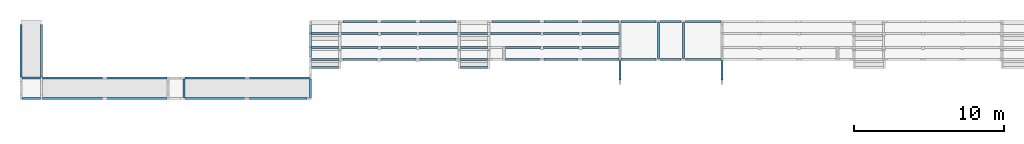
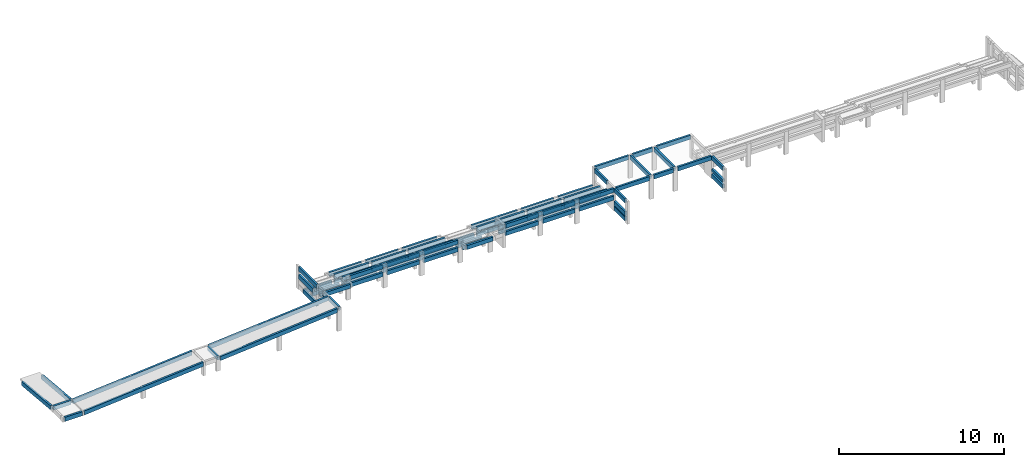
# One storey, part 4 of 9: 78 beams.
"""IFC4 building model written with IfcOpenShell, lengths in centimetres."""

from ifc_helpers import new_model, si_unit, derived_unit, frame, origin_with_axes, origin_2d_with_axis, place, context, project, spatial, rectangle, extrude, clip, halfspace, material, element, save


model = new_model("IFC4")

# Units and contexts
model_context = context("Model", 3, precision=1e-05, world=origin_with_axes(), identifier="Body")
ifc_project = project(units=[si_unit("LENGTHUNIT", "METRE", prefix="CENTI"), si_unit("VOLUMEUNIT", "CUBIC_METRE"), si_unit("AREAUNIT", "SQUARE_METRE"), si_unit("POWERUNIT", "WATT"), si_unit("LUMINOUSFLUXUNIT", "LUMEN"), si_unit("ELECTRICCURRENTUNIT", "AMPERE"), si_unit("PRESSUREUNIT", "PASCAL", prefix="KILO"), si_unit("MASSUNIT", "GRAM", prefix="KILO"), si_unit("PLANEANGLEUNIT", "RADIAN"), derived_unit("VOLUMETRICFLOWRATEUNIT", [(si_unit("LENGTHUNIT", "METRE"), 3), (si_unit("TIMEUNIT", "SECOND"), -1)])], contexts=[model_context])

# Site, building, storey
site_placement = place(None, origin_with_axes())
site = spatial("IfcSite", under=ifc_project, at=site_placement)
building_placement = place(site_placement, frame((0.0, 0.0, -170.0)))
building = spatial("IfcBuilding", under=site, at=building_placement)
placement = place(building_placement, origin_with_axes())
storey_placement = place(placement, frame((0.0, 0.0, 170.0), z_axis=(0.0, 0.0, 1.0), x_axis=(1.0, 0.0, 0.0)))
storey = spatial("IfcBuildingStorey", under=building, at=storey_placement, Name="Arquibancada", CompositionType="ELEMENT", Elevation=0.0)

# Beams
ifc_material = material(Name="Concreto")
beam_1_placement = place(storey_placement, frame((2198.06, 385.0, 0.0), z_axis=(0.0, 0.0, 1.0), x_axis=(1.0, 0.0, 0.0)))
element("IfcBeam", 1, at=beam_1_placement, inside=storey, material=ifc_material, Name="V1", context=model_context, shape_type="SolidModel", body=[
    extrude(rectangle(XDim=14.0, YDim=30.0, at=origin_2d_with_axis()), frame((-117.5, 0.0, -15.0), z_axis=(1.0, 0.0, 0.0), x_axis=(0.0, 1.0, 0.0)), (0.0, 0.0, 1.0), 235.0),
])
beam_2_placement = place(storey_placement, frame((2414.06, 385.0, 0.0), z_axis=(0.0, 0.0, 1.0), x_axis=(1.0, 0.0, 0.0)))
element("IfcBeam", 2, at=beam_2_placement, inside=storey, material=ifc_material, Name="V1", context=model_context, shape_type="SolidModel", body=[
    extrude(rectangle(XDim=14.0, YDim=30.0, at=origin_2d_with_axis()), frame((-68.5, 0.0, -15.0), z_axis=(1.0, 0.0, 0.0), x_axis=(0.0, 1.0, 0.0)), (0.0, 0.0, 1.0), 137.0),
])
beam_3_placement = place(storey_placement, frame((2630.06, 385.0, 0.0), z_axis=(0.0, 0.0, 1.0), x_axis=(1.0, 0.0, 0.0)))
element("IfcBeam", 3, at=beam_3_placement, inside=storey, material=ifc_material, Name="V1", context=model_context, shape_type="SolidModel", body=[
    extrude(rectangle(XDim=14.0, YDim=30.0, at=origin_2d_with_axis()), frame((-117.5, 0.0, -15.0), z_axis=(1.0, 0.0, 0.0), x_axis=(0.0, 1.0, 0.0)), (0.0, 0.0, 1.0), 235.0),
])
beam_4_placement = place(storey_placement, frame((1945.9, 385.0, -132.0), z_axis=(0.0, 0.0, 1.0), x_axis=(1.0, 0.0, 0.0)))
element("IfcBeam", 4, at=beam_4_placement, inside=storey, material=ifc_material, Name="V107", context=model_context, shape_type="SolidModel", body=[
    extrude(rectangle(XDim=14.0, YDim=30.0, at=origin_2d_with_axis()), frame((-120.66, 0.0, -15.0), z_axis=(1.0, 0.0, 0.0), x_axis=(0.0, 1.0, 0.0)), (0.0, 0.0, 1.0), 241.32),
])
beam_5_placement = place(storey_placement, frame((1682.08, 385.0, -132.0), z_axis=(0.0, 0.0, 1.0), x_axis=(1.0, 0.0, 0.0)))
element("IfcBeam", 5, at=beam_5_placement, inside=storey, material=ifc_material, Name="V107", context=model_context, shape_type="SolidModel", body=[
    extrude(rectangle(XDim=14.0, YDim=30.0, at=origin_2d_with_axis()), frame((-113.16, 0.0, -15.0), z_axis=(1.0, 0.0, 0.0), x_axis=(0.0, 1.0, 0.0)), (0.0, 0.0, 1.0), 226.32),
])
beam_6_placement = place(storey_placement, frame((1380.225, 385.0, -132.0), z_axis=(0.0, 0.0, 1.0), x_axis=(1.0, 0.0, 0.0)))
element("IfcBeam", 6, at=beam_6_placement, inside=storey, material=ifc_material, Name="V107", context=model_context, shape_type="SolidModel", body=[
    extrude(rectangle(XDim=14.0, YDim=30.0, at=origin_2d_with_axis()), frame((-158.695, 0.0, -15.0), z_axis=(1.0, 0.0, 0.0), x_axis=(0.0, 1.0, 0.0)), (0.0, 0.0, 1.0), 317.39),
])
beam_7_placement = place(storey_placement, frame((-415.0, 7.0, 0.0), z_axis=(0.0, 0.0, 1.0), x_axis=(1.0, 0.0, 0.0)))
element("IfcBeam", 7, at=beam_7_placement, inside=storey, material=ifc_material, Name="V11", context=model_context, shape_type="Clipping", body=[
    clip(clip(extrude(rectangle(XDim=14.0, YDim=30.0, at=origin_2d_with_axis()), frame((416.74121599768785, 0.0, -14.948557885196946), z_axis=(0.996570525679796, 0.0, 0.082747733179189), x_axis=(0.0, 1.0, 0.0)), (0.0, 0.0, -1.0), 836.3506751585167), halfspace(frame((415.5, 0.0, 0.0), z_axis=(-1.0, 0.0, 0.0), x_axis=(0.0, -0.082747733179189, 0.0)), True)), halfspace(frame((-415.5, 0.0, -69.0), z_axis=(1.0, 0.0, 0.0), x_axis=(0.0, 0.082747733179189, 0.0)), True)),
])
beam_8_placement = place(storey_placement, frame((-423.0, -130.0, 0.0), z_axis=(0.0, 0.0, 1.0), x_axis=(1.0, 0.0, 0.0)))
element("IfcBeam", 8, at=beam_8_placement, inside=storey, material=ifc_material, Name="V13", context=model_context, shape_type="Clipping", body=[
    clip(clip(extrude(rectangle(XDim=14.0, YDim=30.0, at=origin_2d_with_axis()), frame((408.7654116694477, 0.0, -14.946529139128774), z_axis=(0.996435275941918, 0.0, 0.084360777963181), x_axis=(0.0, 1.0, 0.0)), (0.0, 0.0, -1.0), 820.4555208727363), halfspace(frame((407.5, 0.0, 0.0), z_axis=(-1.0, 0.0, 0.0), x_axis=(0.0, -0.084360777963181, 0.0)), True)), halfspace(frame((-407.5, 0.0, -69.0), z_axis=(1.0, 0.0, 0.0), x_axis=(0.0, 0.084360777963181, 0.0)), True)),
])
beam_9_placement = place(storey_placement, frame((336.66, 210.0, -56.0), z_axis=(0.0, 0.0, 1.0), x_axis=(1.0, 0.0, 0.0)))
element("IfcBeam", 9, at=beam_9_placement, inside=storey, material=ifc_material, Name="V17", context=model_context, shape_type="SolidModel", body=[
    extrude(rectangle(XDim=14.0, YDim=30.0, at=origin_2d_with_axis()), frame((-121.16, 0.0, -15.0), z_axis=(1.0, 0.0, 0.0), x_axis=(0.0, 1.0, 0.0)), (0.0, 0.0, 1.0), 242.32),
])
beam_10_placement = place(storey_placement, frame((596.23, 210.0, -56.0), z_axis=(0.0, 0.0, 1.0), x_axis=(1.0, 0.0, 0.0)))
element("IfcBeam", 10, at=beam_10_placement, inside=storey, material=ifc_material, Name="V17", context=model_context, shape_type="SolidModel", body=[
    extrude(rectangle(XDim=14.0, YDim=30.0, at=origin_2d_with_axis()), frame((-118.41, 0.0, -15.0), z_axis=(1.0, 0.0, 0.0), x_axis=(0.0, 1.0, 0.0)), (0.0, 0.0, 1.0), 236.82),
])
beam_11_placement = place(storey_placement, frame((861.585, 210.0, -56.0), z_axis=(0.0, 0.0, 1.0), x_axis=(1.0, 0.0, 0.0)))
element("IfcBeam", 11, at=beam_11_placement, inside=storey, material=ifc_material, Name="V17", context=model_context, shape_type="SolidModel", body=[
    extrude(rectangle(XDim=14.0, YDim=30.0, at=origin_2d_with_axis()), frame((-127.945, 0.0, -15.0), z_axis=(1.0, 0.0, 0.0), x_axis=(0.0, 1.0, 0.0)), (0.0, 0.0, 1.0), 255.89),
])
beam_12_placement = place(storey_placement, frame((1943.15, 210.0, -56.0), z_axis=(0.0, 0.0, 1.0), x_axis=(1.0, 0.0, 0.0)))
element("IfcBeam", 12, at=beam_12_placement, inside=storey, material=ifc_material, Name="V18", context=model_context, shape_type="SolidModel", body=[
    extrude(rectangle(XDim=14.0, YDim=30.0, at=origin_2d_with_axis()), frame((-123.41, 0.0, -15.0), z_axis=(1.0, 0.0, 0.0), x_axis=(0.0, 1.0, 0.0)), (0.0, 0.0, 1.0), 246.82),
])
beam_13_placement = place(storey_placement, frame((1427.49, 210.0, -56.0), z_axis=(0.0, 0.0, 1.0), x_axis=(1.0, 0.0, 0.0)))
element("IfcBeam", 13, at=beam_13_placement, inside=storey, material=ifc_material, Name="V18", context=model_context, shape_type="SolidModel", body=[
    extrude(rectangle(XDim=14.0, YDim=30.0, at=origin_2d_with_axis()), frame((-116.93, 0.0, -15.0), z_axis=(1.0, 0.0, 0.0), x_axis=(0.0, 1.0, 0.0)), (0.0, 0.0, 1.0), 233.86),
])
beam_14_placement = place(storey_placement, frame((1682.08, 210.0, -56.0), z_axis=(0.0, 0.0, 1.0), x_axis=(1.0, 0.0, 0.0)))
element("IfcBeam", 14, at=beam_14_placement, inside=storey, material=ifc_material, Name="V18", context=model_context, shape_type="SolidModel", body=[
    extrude(rectangle(XDim=14.0, YDim=30.0, at=origin_2d_with_axis()), frame((-118.66, 0.0, -15.0), z_axis=(1.0, 0.0, 0.0), x_axis=(0.0, 1.0, 0.0)), (0.0, 0.0, 1.0), 237.32),
])
beam_15_placement = place(storey_placement, frame((858.835, 131.0, 0.0), z_axis=(0.0, 0.0, 1.0), x_axis=(1.0, 0.0, 0.0)))
element("IfcBeam", 15, at=beam_15_placement, inside=storey, material=ifc_material, Name="V2", context=model_context, shape_type="SolidModel", body=[
    extrude(rectangle(XDim=14.0, YDim=30.0, at=origin_2d_with_axis()), frame((-119.695, 0.0, -15.0), z_axis=(1.0, 0.0, 0.0), x_axis=(0.0, 1.0, 0.0)), (0.0, 0.0, 1.0), 239.39),
])
for number, where, z_axis, x_axis, name in (
    (16, (339.66, 131.0, 0.0), (0.0, 0.0, 1.0), (1.0, 0.0, 0.0), "V2"),
    (17, (595.98, 131.0, 0.0), (0.0, 0.0, 1.0), (1.0, 0.0, 0.0), "V2"),
):
    element("IfcBeam", number, at=place(storey_placement, frame(where, z_axis=z_axis, x_axis=x_axis)), inside=storey, material=ifc_material, Name=name, context=model_context, shape_type="SolidModel", body=[
        extrude(rectangle(XDim=14.0, YDim=30.0, at=origin_2d_with_axis()), frame((-113.16, 0.0, -15.0), z_axis=(1.0, 0.0, 0.0), x_axis=(0.0, 1.0, 0.0)), (0.0, 0.0, 1.0), 226.32),
    ])
beam_16_placement = place(storey_placement, frame((858.835, 131.0, -56.0), z_axis=(0.0, 0.0, 1.0), x_axis=(1.0, 0.0, 0.0)))
element("IfcBeam", 18, at=beam_16_placement, inside=storey, material=ifc_material, Name="V21", context=model_context, shape_type="SolidModel", body=[
    extrude(rectangle(XDim=14.0, YDim=30.0, at=origin_2d_with_axis()), frame((-119.695, 0.0, -15.0), z_axis=(1.0, 0.0, 0.0), x_axis=(0.0, 1.0, 0.0)), (0.0, 0.0, 1.0), 239.39),
])
beam_17_placement = place(storey_placement, frame((339.66, 131.0, -56.0), z_axis=(0.0, 0.0, 1.0), x_axis=(1.0, 0.0, 0.0)))
element("IfcBeam", 19, at=beam_17_placement, inside=storey, material=ifc_material, Name="V21", context=model_context, shape_type="SolidModel", body=[
    extrude(rectangle(XDim=14.0, YDim=30.0, at=origin_2d_with_axis()), frame((-113.16, 0.0, -15.0), z_axis=(1.0, 0.0, 0.0), x_axis=(0.0, 1.0, 0.0)), (0.0, 0.0, 1.0), 226.32),
])
beam_18_placement = place(storey_placement, frame((105.5, 131.0, -56.0), z_axis=(0.0, 0.0, 1.0), x_axis=(1.0, 0.0, 0.0)))
element("IfcBeam", 20, at=beam_18_placement, inside=storey, material=ifc_material, Name="V21", context=model_context, shape_type="SolidModel", body=[
    extrude(rectangle(XDim=14.0, YDim=30.0, at=origin_2d_with_axis()), frame((-91.0, 0.0, -15.0), z_axis=(1.0, 0.0, 0.0), x_axis=(0.0, 1.0, 0.0)), (0.0, 0.0, 1.0), 182.0),
])
beam_19_placement = place(storey_placement, frame((595.98, 131.0, -56.0), z_axis=(0.0, 0.0, 1.0), x_axis=(1.0, 0.0, 0.0)))
element("IfcBeam", 21, at=beam_19_placement, inside=storey, material=ifc_material, Name="V21", context=model_context, shape_type="SolidModel", body=[
    extrude(rectangle(XDim=14.0, YDim=30.0, at=origin_2d_with_axis()), frame((-113.16, 0.0, -15.0), z_axis=(1.0, 0.0, 0.0), x_axis=(0.0, 1.0, 0.0)), (0.0, 0.0, 1.0), 226.32),
])
beam_20_placement = place(storey_placement, frame((1100.035, 131.0, -56.0), z_axis=(0.0, 0.0, 1.0), x_axis=(1.0, 0.0, 0.0)))
element("IfcBeam", 22, at=beam_20_placement, inside=storey, material=ifc_material, Name="V21", context=model_context, shape_type="SolidModel", body=[
    extrude(rectangle(XDim=14.0, YDim=30.0, at=origin_2d_with_axis()), frame((-91.505, 0.0, -15.0), z_axis=(1.0, 0.0, 0.0), x_axis=(0.0, 1.0, 0.0)), (0.0, 0.0, 1.0), 183.01),
])
beam_21_placement = place(storey_placement, frame((1945.9, 131.0, -56.0), z_axis=(0.0, 0.0, 1.0), x_axis=(1.0, 0.0, 0.0)))
element("IfcBeam", 23, at=beam_21_placement, inside=storey, material=ifc_material, Name="V22", context=model_context, shape_type="SolidModel", body=[
    extrude(rectangle(XDim=14.0, YDim=30.0, at=origin_2d_with_axis()), frame((-120.66, 0.0, -15.0), z_axis=(1.0, 0.0, 0.0), x_axis=(0.0, 1.0, 0.0)), (0.0, 0.0, 1.0), 241.32),
])
beam_22_placement = place(storey_placement, frame((1424.74, 131.0, -56.0), z_axis=(0.0, 0.0, 1.0), x_axis=(1.0, 0.0, 0.0)))
element("IfcBeam", 24, at=beam_22_placement, inside=storey, material=ifc_material, Name="V22", context=model_context, shape_type="SolidModel", body=[
    extrude(rectangle(XDim=14.0, YDim=30.0, at=origin_2d_with_axis()), frame((-114.18, 0.0, -15.0), z_axis=(1.0, 0.0, 0.0), x_axis=(0.0, 1.0, 0.0)), (0.0, 0.0, 1.0), 228.36),
])
beam_23_placement = place(storey_placement, frame((1682.08, 131.0, -56.0), z_axis=(0.0, 0.0, 1.0), x_axis=(1.0, 0.0, 0.0)))
element("IfcBeam", 25, at=beam_23_placement, inside=storey, material=ifc_material, Name="V22", context=model_context, shape_type="SolidModel", body=[
    extrude(rectangle(XDim=14.0, YDim=30.0, at=origin_2d_with_axis()), frame((-113.16, 0.0, -15.0), z_axis=(1.0, 0.0, 0.0), x_axis=(0.0, 1.0, 0.0)), (0.0, 0.0, 1.0), 226.32),
])
beam_24_placement = place(storey_placement, frame((-837.5, -61.5, -69.0), z_axis=(0.0, 0.0, 1.0), x_axis=(1.0, 0.0, 0.0)))
element("IfcBeam", 26, at=beam_24_placement, inside=storey, material=ifc_material, Name="V28", context=model_context, shape_type="SolidModel", body=[
    extrude(rectangle(XDim=14.0, YDim=30.0, at=origin_2d_with_axis()), frame((0.0, -61.5, -15.0), z_axis=(0.0, 1.0, 0.0), x_axis=(-1.0, 0.0, 0.0)), (0.0, 0.0, 1.0), 123.0),
])
beam_25_placement = place(storey_placement, frame((7.5, 276.0, -56.0), z_axis=(0.0, 0.0, 1.0), x_axis=(1.0, 0.0, 0.0)))
element("IfcBeam", 27, at=beam_25_placement, inside=storey, material=ifc_material, Name="V29", context=model_context, shape_type="SolidModel", body=[
    extrude(rectangle(XDim=14.0, YDim=30.0, at=origin_2d_with_axis()), frame((0.0, -86.0, -15.0), z_axis=(0.0, 1.0, 0.0), x_axis=(-1.0, 0.0, 0.0)), (0.0, 0.0, 1.0), 172.0),
])
beam_26_placement = place(storey_placement, frame((2198.06, 131.0, 0.0), z_axis=(0.0, 0.0, 1.0), x_axis=(1.0, 0.0, 0.0)))
element("IfcBeam", 28, at=beam_26_placement, inside=storey, material=ifc_material, Name="V3", context=model_context, shape_type="SolidModel", body=[
    extrude(rectangle(XDim=14.0, YDim=30.0, at=origin_2d_with_axis()), frame((-117.5, 0.0, -15.0), z_axis=(1.0, 0.0, 0.0), x_axis=(0.0, 1.0, 0.0)), (0.0, 0.0, 1.0), 235.0),
])
beam_27_placement = place(storey_placement, frame((1945.9, 131.0, 0.0), z_axis=(0.0, 0.0, 1.0), x_axis=(1.0, 0.0, 0.0)))
element("IfcBeam", 29, at=beam_27_placement, inside=storey, material=ifc_material, Name="V3", context=model_context, shape_type="SolidModel", body=[
    extrude(rectangle(XDim=14.0, YDim=30.0, at=origin_2d_with_axis()), frame((-120.66, 0.0, -15.0), z_axis=(1.0, 0.0, 0.0), x_axis=(0.0, 1.0, 0.0)), (0.0, 0.0, 1.0), 241.32),
])
beam_28_placement = place(storey_placement, frame((1682.08, 131.0, 0.0), z_axis=(0.0, 0.0, 1.0), x_axis=(1.0, 0.0, 0.0)))
element("IfcBeam", 30, at=beam_28_placement, inside=storey, material=ifc_material, Name="V3", context=model_context, shape_type="SolidModel", body=[
    extrude(rectangle(XDim=14.0, YDim=30.0, at=origin_2d_with_axis()), frame((-113.16, 0.0, -15.0), z_axis=(1.0, 0.0, 0.0), x_axis=(0.0, 1.0, 0.0)), (0.0, 0.0, 1.0), 226.32),
])
beam_29_placement = place(storey_placement, frame((1424.74, 131.0, 0.0), z_axis=(0.0, 0.0, 1.0), x_axis=(1.0, 0.0, 0.0)))
element("IfcBeam", 31, at=beam_29_placement, inside=storey, material=ifc_material, Name="V3", context=model_context, shape_type="SolidModel", body=[
    extrude(rectangle(XDim=14.0, YDim=30.0, at=origin_2d_with_axis()), frame((-114.18, 0.0, -15.0), z_axis=(1.0, 0.0, 0.0), x_axis=(0.0, 1.0, 0.0)), (0.0, 0.0, 1.0), 228.36),
])
beam_30_placement = place(storey_placement, frame((2630.06, 131.0, 0.0), z_axis=(0.0, 0.0, 1.0), x_axis=(1.0, 0.0, 0.0)))
element("IfcBeam", 32, at=beam_30_placement, inside=storey, material=ifc_material, Name="V3", context=model_context, shape_type="SolidModel", body=[
    extrude(rectangle(XDim=14.0, YDim=30.0, at=origin_2d_with_axis()), frame((-117.5, 0.0, -15.0), z_axis=(1.0, 0.0, 0.0), x_axis=(0.0, 1.0, 0.0)), (0.0, 0.0, 1.0), 235.0),
])
beam_31_placement = place(storey_placement, frame((2414.06, 131.0, 0.0), z_axis=(0.0, 0.0, 1.0), x_axis=(1.0, 0.0, 0.0)))
element("IfcBeam", 33, at=beam_31_placement, inside=storey, material=ifc_material, Name="V3", context=model_context, shape_type="SolidModel", body=[
    extrude(rectangle(XDim=14.0, YDim=30.0, at=origin_2d_with_axis()), frame((-68.5, 0.0, -15.0), z_axis=(1.0, 0.0, 0.0), x_axis=(0.0, 1.0, 0.0)), (0.0, 0.0, 1.0), 137.0),
])
for number, where, z_axis, x_axis, name in (
    (34, (-1365.5, 6.5, -69.0), (0.0, 0.0, 1.0), (1.0, 0.0, 0.0), "V32"),
    (35, (-1365.5, -130.0, -69.0), (0.0, 0.0, 1.0), (1.0, 0.0, 0.0), "V33"),
):
    element("IfcBeam", number, at=place(storey_placement, frame(where, z_axis=z_axis, x_axis=x_axis)), inside=storey, material=ifc_material, Name=name, context=model_context, shape_type="Clipping", body=[
        clip(clip(extrude(rectangle(XDim=14.0, YDim=30.0, at=origin_2d_with_axis()), frame((416.2427011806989, 0.0, -14.948434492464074), z_axis=(0.996562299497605, 0.0, 0.082846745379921), x_axis=(0.0, 1.0, 0.0)), (0.0, 0.0, -1.0), 835.3571099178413), halfspace(frame((415.0, 0.0, 0.0), z_axis=(-1.0, 0.0, 0.0), x_axis=(0.0, -0.082846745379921, 0.0)), True)), halfspace(frame((-415.0, 0.0, -69.0), z_axis=(1.0, 0.0, 0.0), x_axis=(0.0, 0.082846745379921, 0.0)), True)),
    ])
beam_32_placement = place(storey_placement, frame((861.585, 305.0, -94.0), z_axis=(0.0, 0.0, 1.0), x_axis=(1.0, 0.0, 0.0)))
element("IfcBeam", 36, at=beam_32_placement, inside=storey, material=ifc_material, Name="V35", context=model_context, shape_type="SolidModel", body=[
    extrude(rectangle(XDim=14.0, YDim=30.0, at=origin_2d_with_axis()), frame((-127.945, 0.0, -15.0), z_axis=(1.0, 0.0, 0.0), x_axis=(0.0, 1.0, 0.0)), (0.0, 0.0, 1.0), 255.89),
])
beam_33_placement = place(storey_placement, frame((596.23, 305.0, -94.0), z_axis=(0.0, 0.0, 1.0), x_axis=(1.0, 0.0, 0.0)))
element("IfcBeam", 37, at=beam_33_placement, inside=storey, material=ifc_material, Name="V35", context=model_context, shape_type="SolidModel", body=[
    extrude(rectangle(XDim=14.0, YDim=30.0, at=origin_2d_with_axis()), frame((-118.41, 0.0, -15.0), z_axis=(1.0, 0.0, 0.0), x_axis=(0.0, 1.0, 0.0)), (0.0, 0.0, 1.0), 236.82),
])
beam_34_placement = place(storey_placement, frame((336.66, 305.0, -94.0), z_axis=(0.0, 0.0, 1.0), x_axis=(1.0, 0.0, 0.0)))
element("IfcBeam", 38, at=beam_34_placement, inside=storey, material=ifc_material, Name="V35", context=model_context, shape_type="SolidModel", body=[
    extrude(rectangle(XDim=14.0, YDim=30.0, at=origin_2d_with_axis()), frame((-121.16, 0.0, -15.0), z_axis=(1.0, 0.0, 0.0), x_axis=(0.0, 1.0, 0.0)), (0.0, 0.0, 1.0), 242.32),
])
beam_35_placement = place(storey_placement, frame((1682.08, 210.0, -94.0), z_axis=(0.0, 0.0, 1.0), x_axis=(1.0, 0.0, 0.0)))
element("IfcBeam", 39, at=beam_35_placement, inside=storey, material=ifc_material, Name="V37", context=model_context, shape_type="SolidModel", body=[
    extrude(rectangle(XDim=14.0, YDim=30.0, at=origin_2d_with_axis()), frame((-118.66, 0.0, -15.0), z_axis=(1.0, 0.0, 0.0), x_axis=(0.0, 1.0, 0.0)), (0.0, 0.0, 1.0), 237.32),
])
beam_36_placement = place(storey_placement, frame((1427.49, 210.0, -94.0), z_axis=(0.0, 0.0, 1.0), x_axis=(1.0, 0.0, 0.0)))
element("IfcBeam", 40, at=beam_36_placement, inside=storey, material=ifc_material, Name="V37", context=model_context, shape_type="SolidModel", body=[
    extrude(rectangle(XDim=14.0, YDim=30.0, at=origin_2d_with_axis()), frame((-116.93, 0.0, -15.0), z_axis=(1.0, 0.0, 0.0), x_axis=(0.0, 1.0, 0.0)), (0.0, 0.0, 1.0), 233.86),
])
beam_37_placement = place(storey_placement, frame((102.0, 210.0, -94.0), z_axis=(0.0, 0.0, 1.0), x_axis=(1.0, 0.0, 0.0)))
element("IfcBeam", 41, at=beam_37_placement, inside=storey, material=ifc_material, Name="V37", context=model_context, shape_type="SolidModel", body=[
    extrude(rectangle(XDim=14.0, YDim=30.0, at=origin_2d_with_axis()), frame((-94.5, 0.0, -15.0), z_axis=(1.0, 0.0, 0.0), x_axis=(0.0, 1.0, 0.0)), (0.0, 0.0, 1.0), 189.0),
])
beam_38_placement = place(storey_placement, frame((1100.03, 210.0, -94.0), z_axis=(0.0, 0.0, 1.0), x_axis=(1.0, 0.0, 0.0)))
element("IfcBeam", 42, at=beam_38_placement, inside=storey, material=ifc_material, Name="V37", context=model_context, shape_type="SolidModel", body=[
    extrude(rectangle(XDim=14.0, YDim=30.0, at=origin_2d_with_axis()), frame((-91.5, 0.0, -15.0), z_axis=(1.0, 0.0, 0.0), x_axis=(0.0, 1.0, 0.0)), (0.0, 0.0, 1.0), 183.0),
])
beam_39_placement = place(storey_placement, frame((596.23, 210.0, -94.0), z_axis=(0.0, 0.0, 1.0), x_axis=(1.0, 0.0, 0.0)))
element("IfcBeam", 43, at=beam_39_placement, inside=storey, material=ifc_material, Name="V37", context=model_context, shape_type="SolidModel", body=[
    extrude(rectangle(XDim=14.0, YDim=30.0, at=origin_2d_with_axis()), frame((-118.41, 0.0, -15.0), z_axis=(1.0, 0.0, 0.0), x_axis=(0.0, 1.0, 0.0)), (0.0, 0.0, 1.0), 236.82),
])
beam_40_placement = place(storey_placement, frame((1943.15, 210.0, -94.0), z_axis=(0.0, 0.0, 1.0), x_axis=(1.0, 0.0, 0.0)))
element("IfcBeam", 44, at=beam_40_placement, inside=storey, material=ifc_material, Name="V37", context=model_context, shape_type="SolidModel", body=[
    extrude(rectangle(XDim=14.0, YDim=30.0, at=origin_2d_with_axis()), frame((-123.41, 0.0, -15.0), z_axis=(1.0, 0.0, 0.0), x_axis=(0.0, 1.0, 0.0)), (0.0, 0.0, 1.0), 246.82),
])
beam_41_placement = place(storey_placement, frame((861.585, 210.0, -94.0), z_axis=(0.0, 0.0, 1.0), x_axis=(1.0, 0.0, 0.0)))
element("IfcBeam", 45, at=beam_41_placement, inside=storey, material=ifc_material, Name="V37", context=model_context, shape_type="SolidModel", body=[
    extrude(rectangle(XDim=14.0, YDim=30.0, at=origin_2d_with_axis()), frame((-127.945, 0.0, -15.0), z_axis=(1.0, 0.0, 0.0), x_axis=(0.0, 1.0, 0.0)), (0.0, 0.0, 1.0), 255.89),
])
beam_42_placement = place(storey_placement, frame((336.66, 210.0, -94.0), z_axis=(0.0, 0.0, 1.0), x_axis=(1.0, 0.0, 0.0)))
element("IfcBeam", 46, at=beam_42_placement, inside=storey, material=ifc_material, Name="V37", context=model_context, shape_type="SolidModel", body=[
    extrude(rectangle(XDim=14.0, YDim=30.0, at=origin_2d_with_axis()), frame((-121.16, 0.0, -15.0), z_axis=(1.0, 0.0, 0.0), x_axis=(0.0, 1.0, 0.0)), (0.0, 0.0, 1.0), 242.32),
])
beam_43_placement = place(storey_placement, frame((2073.56, 59.25, -94.0), z_axis=(0.0, 0.0, 1.0), x_axis=(1.0, 0.0, 0.0)))
element("IfcBeam", 47, at=beam_43_placement, inside=storey, material=ifc_material, Name="V43", context=model_context, shape_type="SolidModel", body=[
    extrude(rectangle(XDim=14.0, YDim=30.0, at=origin_2d_with_axis()), frame((0.0, -64.75, -15.0), z_axis=(0.0, 1.0, 0.0), x_axis=(1.0, 0.0, 0.0)), (0.0, 0.0, 1.0), 129.5),
])
beam_44_placement = place(storey_placement, frame((2754.56, 59.25, -94.0), z_axis=(0.0, 0.0, 1.0), x_axis=(1.0, 0.0, 0.0)))
element("IfcBeam", 48, at=beam_44_placement, inside=storey, material=ifc_material, Name="V44", context=model_context, shape_type="SolidModel", body=[
    extrude(rectangle(XDim=14.0, YDim=20.0, at=origin_2d_with_axis()), frame((0.0, -64.75, -10.0), z_axis=(0.0, 1.0, 0.0), x_axis=(1.0, 0.0, 0.0)), (0.0, 0.0, 1.0), 129.5),
])
beam_45_placement = place(storey_placement, frame((7.5, -61.5, 0.0), z_axis=(0.0, 0.0, 1.0), x_axis=(1.0, 0.0, 0.0)))
element("IfcBeam", 49, at=beam_45_placement, inside=storey, material=ifc_material, Name="V5", context=model_context, shape_type="SolidModel", body=[
    extrude(rectangle(XDim=14.0, YDim=30.0, at=origin_2d_with_axis()), frame((0.0, -61.5, -15.0), z_axis=(0.0, 1.0, 0.0), x_axis=(1.0, 0.0, 0.0)), (0.0, 0.0, 1.0), 123.0),
])
beam_46_placement = place(storey_placement, frame((7.5, 254.0, 0.0), z_axis=(0.0, 0.0, 1.0), x_axis=(1.0, 0.0, 0.0)))
element("IfcBeam", 50, at=beam_46_placement, inside=storey, material=ifc_material, Name="V5", context=model_context, shape_type="SolidModel", body=[
    extrude(rectangle(XDim=14.0, YDim=30.0, at=origin_2d_with_axis()), frame((0.0, -108.0, -15.0), z_axis=(0.0, 1.0, 0.0), x_axis=(-1.0, 0.0, 0.0)), (0.0, 0.0, 1.0), 216.0),
])
beam_47_placement = place(storey_placement, frame((858.835, 385.0, -132.0), z_axis=(0.0, 0.0, 1.0), x_axis=(1.0, 0.0, 0.0)))
element("IfcBeam", 51, at=beam_47_placement, inside=storey, material=ifc_material, Name="V50", context=model_context, shape_type="SolidModel", body=[
    extrude(rectangle(XDim=14.0, YDim=30.0, at=origin_2d_with_axis()), frame((-119.695, 0.0, -15.0), z_axis=(1.0, 0.0, 0.0), x_axis=(0.0, 1.0, 0.0)), (0.0, 0.0, 1.0), 239.39),
])
for number, where, z_axis, x_axis, name in (
    (52, (339.66, 385.0, -132.0), (0.0, 0.0, 1.0), (1.0, 0.0, 0.0), "V50"),
    (53, (595.98, 385.0, -132.0), (0.0, 0.0, 1.0), (1.0, 0.0, 0.0), "V50"),
):
    element("IfcBeam", number, at=place(storey_placement, frame(where, z_axis=z_axis, x_axis=x_axis)), inside=storey, material=ifc_material, Name=name, context=model_context, shape_type="SolidModel", body=[
        extrude(rectangle(XDim=14.0, YDim=30.0, at=origin_2d_with_axis()), frame((-113.16, 0.0, -15.0), z_axis=(1.0, 0.0, 0.0), x_axis=(0.0, 1.0, 0.0)), (0.0, 0.0, 1.0), 226.32),
    ])
beam_48_placement = place(storey_placement, frame((336.66, 305.0, -132.0), z_axis=(0.0, 0.0, 1.0), x_axis=(1.0, 0.0, 0.0)))
element("IfcBeam", 54, at=beam_48_placement, inside=storey, material=ifc_material, Name="V52", context=model_context, shape_type="SolidModel", body=[
    extrude(rectangle(XDim=14.0, YDim=30.0, at=origin_2d_with_axis()), frame((-121.16, 0.0, -15.0), z_axis=(1.0, 0.0, 0.0), x_axis=(0.0, 1.0, 0.0)), (0.0, 0.0, 1.0), 242.32),
])
beam_49_placement = place(storey_placement, frame((1682.08, 305.0, -132.0), z_axis=(0.0, 0.0, 1.0), x_axis=(1.0, 0.0, 0.0)))
element("IfcBeam", 55, at=beam_49_placement, inside=storey, material=ifc_material, Name="V52", context=model_context, shape_type="SolidModel", body=[
    extrude(rectangle(XDim=14.0, YDim=30.0, at=origin_2d_with_axis()), frame((-118.66, 0.0, -15.0), z_axis=(1.0, 0.0, 0.0), x_axis=(0.0, 1.0, 0.0)), (0.0, 0.0, 1.0), 237.32),
])
beam_50_placement = place(storey_placement, frame((596.23, 305.0, -132.0), z_axis=(0.0, 0.0, 1.0), x_axis=(1.0, 0.0, 0.0)))
element("IfcBeam", 56, at=beam_50_placement, inside=storey, material=ifc_material, Name="V52", context=model_context, shape_type="SolidModel", body=[
    extrude(rectangle(XDim=14.0, YDim=30.0, at=origin_2d_with_axis()), frame((-118.41, 0.0, -15.0), z_axis=(1.0, 0.0, 0.0), x_axis=(0.0, 1.0, 0.0)), (0.0, 0.0, 1.0), 236.82),
])
beam_51_placement = place(storey_placement, frame((861.585, 305.0, -132.0), z_axis=(0.0, 0.0, 1.0), x_axis=(1.0, 0.0, 0.0)))
element("IfcBeam", 57, at=beam_51_placement, inside=storey, material=ifc_material, Name="V52", context=model_context, shape_type="SolidModel", body=[
    extrude(rectangle(XDim=14.0, YDim=30.0, at=origin_2d_with_axis()), frame((-127.945, 0.0, -15.0), z_axis=(1.0, 0.0, 0.0), x_axis=(0.0, 1.0, 0.0)), (0.0, 0.0, 1.0), 255.89),
])
beam_52_placement = place(storey_placement, frame((1100.03, 305.0, -132.0), z_axis=(0.0, 0.0, 1.0), x_axis=(1.0, 0.0, 0.0)))
element("IfcBeam", 58, at=beam_52_placement, inside=storey, material=ifc_material, Name="V52", context=model_context, shape_type="SolidModel", body=[
    extrude(rectangle(XDim=14.0, YDim=30.0, at=origin_2d_with_axis()), frame((-91.5, 0.0, -15.0), z_axis=(1.0, 0.0, 0.0), x_axis=(0.0, 1.0, 0.0)), (0.0, 0.0, 1.0), 183.0),
])
beam_53_placement = place(storey_placement, frame((1946.65, 305.0, -132.0), z_axis=(0.0, 0.0, 1.0), x_axis=(1.0, 0.0, 0.0)))
element("IfcBeam", 59, at=beam_53_placement, inside=storey, material=ifc_material, Name="V52", context=model_context, shape_type="SolidModel", body=[
    extrude(rectangle(XDim=14.0, YDim=30.0, at=origin_2d_with_axis()), frame((-126.91, 0.0, -15.0), z_axis=(1.0, 0.0, 0.0), x_axis=(0.0, 1.0, 0.0)), (0.0, 0.0, 1.0), 253.82),
])
beam_54_placement = place(storey_placement, frame((102.0, 305.0, -132.0), z_axis=(0.0, 0.0, 1.0), x_axis=(1.0, 0.0, 0.0)))
element("IfcBeam", 60, at=beam_54_placement, inside=storey, material=ifc_material, Name="V52", context=model_context, shape_type="SolidModel", body=[
    extrude(rectangle(XDim=14.0, YDim=30.0, at=origin_2d_with_axis()), frame((-94.5, 0.0, -15.0), z_axis=(1.0, 0.0, 0.0), x_axis=(0.0, 1.0, 0.0)), (0.0, 0.0, 1.0), 189.0),
])
beam_55_placement = place(storey_placement, frame((1377.475, 305.0, -132.0), z_axis=(0.0, 0.0, 1.0), x_axis=(1.0, 0.0, 0.0)))
element("IfcBeam", 61, at=beam_55_placement, inside=storey, material=ifc_material, Name="V52", context=model_context, shape_type="SolidModel", body=[
    extrude(rectangle(XDim=14.0, YDim=30.0, at=origin_2d_with_axis()), frame((-166.945, 0.0, -15.0), z_axis=(1.0, 0.0, 0.0), x_axis=(0.0, 1.0, 0.0)), (0.0, 0.0, 1.0), 333.89),
])
beam_56_placement = place(storey_placement, frame((-1856.0, 6.5, -138.0), z_axis=(0.0, 0.0, 1.0), x_axis=(1.0, 0.0, 0.0)))
element("IfcBeam", 62, at=beam_56_placement, inside=storey, material=ifc_material, Name="V55", context=model_context, shape_type="SolidModel", body=[
    extrude(rectangle(XDim=14.0, YDim=30.0, at=origin_2d_with_axis()), frame((-61.5, 0.0, -15.0), z_axis=(1.0, 0.0, 0.0), x_axis=(0.0, -1.0, 0.0)), (0.0, 0.0, 1.0), 123.0),
])
beam_57_placement = place(storey_placement, frame((-1856.0064024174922, -129.7749765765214, -138.0), z_axis=(0.0, 0.0, 1.0), x_axis=(1.0, 0.0, 0.0)))
element("IfcBeam", 63, at=beam_57_placement, inside=storey, material=ifc_material, Name="V57", context=model_context, shape_type="SolidModel", body=[
    extrude(rectangle(XDim=14.0, YDim=30.0, at=origin_2d_with_axis()), frame((-61.51920716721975, 0.225070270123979, -15.0), z_axis=(1.0, -0.003658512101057, 0.0), x_axis=(-0.003658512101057, -1.0, 0.0)), (0.0, 0.0, 1.0), 123.03923775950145),
])
beam_58_placement = place(storey_placement, frame((2073.56, 59.25, 0.0), z_axis=(0.0, 0.0, 1.0), x_axis=(1.0, 0.0, 0.0)))
element("IfcBeam", 64, at=beam_58_placement, inside=storey, material=ifc_material, Name="V6", context=model_context, shape_type="SolidModel", body=[
    extrude(rectangle(XDim=14.0, YDim=30.0, at=origin_2d_with_axis()), frame((0.0, -64.75, -15.0), z_axis=(0.0, 1.0, 0.0), x_axis=(1.0, 0.0, 0.0)), (0.0, 0.0, 1.0), 129.5),
])
beam_59_placement = place(storey_placement, frame((2073.56, 289.5, 0.0), z_axis=(0.0, 0.0, 1.0), x_axis=(1.0, 0.0, 0.0)))
element("IfcBeam", 65, at=beam_59_placement, inside=storey, material=ifc_material, Name="V6", context=model_context, shape_type="SolidModel", body=[
    extrude(rectangle(XDim=14.0, YDim=30.0, at=origin_2d_with_axis()), frame((0.0, -72.5, -15.0), z_axis=(0.0, 1.0, 0.0), x_axis=(1.0, 0.0, 0.0)), (0.0, 0.0, 1.0), 145.0),
])
beam_60_placement = place(storey_placement, frame((7.5, 225.5, -132.0), z_axis=(0.0, 0.0, 1.0), x_axis=(1.0, 0.0, 0.0)))
element("IfcBeam", 66, at=beam_60_placement, inside=storey, material=ifc_material, Name="V60", context=model_context, shape_type="SolidModel", body=[
    extrude(rectangle(XDim=14.0, YDim=30.0, at=origin_2d_with_axis()), frame((0.0, -79.5, -15.0), z_axis=(0.0, 1.0, 0.0), x_axis=(-1.0, 0.0, 0.0)), (0.0, 0.0, 1.0), 159.0),
])
for number, where, z_axis, x_axis, name in (
    (67, (2073.56, 59.25, -132.0), (0.0, 0.0, 1.0), (1.0, 0.0, 0.0), "V61"),
    (68, (2754.56, 59.25, -132.0), (0.0, 0.0, 1.0), (1.0, 0.0, 0.0), "V62"),
):
    element("IfcBeam", number, at=place(storey_placement, frame(where, z_axis=z_axis, x_axis=x_axis)), inside=storey, material=ifc_material, Name=name, context=model_context, shape_type="SolidModel", body=[
        extrude(rectangle(XDim=14.0, YDim=30.0, at=origin_2d_with_axis()), frame((0.0, -64.75, -15.0), z_axis=(0.0, 1.0, 0.0), x_axis=(1.0, 0.0, 0.0)), (0.0, 0.0, 1.0), 129.5),
    ])
for number, where, z_axis, x_axis, name in (
    (69, (-1924.5, 188.75, -138.0), (0.0, 0.0, 1.0), (1.0, 0.0, 0.0), "V66"),
    (70, (-1787.5, 188.75, -138.0), (0.0, 0.0, 1.0), (1.0, 0.0, 0.0), "V67"),
):
    element("IfcBeam", number, at=place(storey_placement, frame(where, z_axis=z_axis, x_axis=x_axis)), inside=storey, material=ifc_material, Name=name, context=model_context, shape_type="Clipping", body=[
        clip(clip(extrude(rectangle(XDim=14.0, YDim=30.0, at=origin_2d_with_axis()), frame((0.0, -176.11766985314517, -14.937519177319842), z_axis=(0.0, -0.995834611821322, 0.091177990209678), x_axis=(1.0, 0.0, 0.0)), (0.0, 0.0, -1.0), 353.70867363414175), halfspace(frame((0.0, -174.75, 0.0), z_axis=(0.0, 1.0, 0.0), x_axis=(-0.091177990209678, 0.0, 0.0)), True)), halfspace(frame((0.0, 174.75, -32.0), z_axis=(0.0, -1.0, 0.0), x_axis=(0.091177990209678, 0.0, 0.0)), True)),
    ])
beam_61_placement = place(storey_placement, frame((2330.56, 258.0, 0.0), z_axis=(0.0, 0.0, 1.0), x_axis=(1.0, 0.0, 0.0)))
element("IfcBeam", 71, at=beam_61_placement, inside=storey, material=ifc_material, Name="V7", context=model_context, shape_type="SolidModel", body=[
    extrude(rectangle(XDim=14.0, YDim=30.0, at=origin_2d_with_axis()), frame((0.0, -120.0, -15.0), z_axis=(0.0, 1.0, 0.0), x_axis=(1.0, 0.0, 0.0)), (0.0, 0.0, 1.0), 240.0),
])
beam_62_placement = place(storey_placement, frame((102.0, 76.0, -19.0), z_axis=(0.0, 0.0, 1.0), x_axis=(1.0, 0.0, 0.0)))
element("IfcBeam", 72, at=beam_62_placement, inside=storey, material=ifc_material, Name="V72", context=model_context, shape_type="SolidModel", body=[
    extrude(rectangle(XDim=14.0, YDim=30.0, at=origin_2d_with_axis()), frame((-94.5, 0.0, -15.0), z_axis=(1.0, 0.0, 0.0), x_axis=(0.0, 1.0, 0.0)), (0.0, 0.0, 1.0), 189.0),
])
beam_63_placement = place(storey_placement, frame((1100.035, 76.0, -19.0), z_axis=(0.0, 0.0, 1.0), x_axis=(1.0, 0.0, 0.0)))
element("IfcBeam", 73, at=beam_63_placement, inside=storey, material=ifc_material, Name="V76", context=model_context, shape_type="SolidModel", body=[
    extrude(rectangle(XDim=14.0, YDim=30.0, at=origin_2d_with_axis()), frame((-91.505, 0.0, -15.0), z_axis=(1.0, 0.0, 0.0), x_axis=(0.0, 1.0, 0.0)), (0.0, 0.0, 1.0), 183.01),
])
beam_64_placement = place(storey_placement, frame((2497.56, 258.0, 0.0), z_axis=(0.0, 0.0, 1.0), x_axis=(1.0, 0.0, 0.0)))
element("IfcBeam", 74, at=beam_64_placement, inside=storey, material=ifc_material, Name="V8", context=model_context, shape_type="SolidModel", body=[
    extrude(rectangle(XDim=14.0, YDim=30.0, at=origin_2d_with_axis()), frame((0.0, -120.0, -15.0), z_axis=(0.0, 1.0, 0.0), x_axis=(1.0, 0.0, 0.0)), (0.0, 0.0, 1.0), 240.0),
])
beam_65_placement = place(storey_placement, frame((2754.56, 59.25, 0.0), z_axis=(0.0, 0.0, 1.0), x_axis=(1.0, 0.0, 0.0)))
element("IfcBeam", 75, at=beam_65_placement, inside=storey, material=ifc_material, Name="V9", context=model_context, shape_type="SolidModel", body=[
    extrude(rectangle(XDim=14.0, YDim=30.0, at=origin_2d_with_axis()), frame((0.0, -64.75, -15.0), z_axis=(0.0, 1.0, 0.0), x_axis=(1.0, 0.0, 0.0)), (0.0, 0.0, 1.0), 129.5),
])
beam_66_placement = place(storey_placement, frame((1377.475, 305.0, -94.0), z_axis=(0.0, 0.0, 1.0), x_axis=(1.0, 0.0, 0.0)))
element("IfcBeam", 76, at=beam_66_placement, inside=storey, material=ifc_material, Name="V95", context=model_context, shape_type="SolidModel", body=[
    extrude(rectangle(XDim=14.0, YDim=30.0, at=origin_2d_with_axis()), frame((-166.945, 0.0, -15.0), z_axis=(1.0, 0.0, 0.0), x_axis=(0.0, 1.0, 0.0)), (0.0, 0.0, 1.0), 333.89),
])
beam_67_placement = place(storey_placement, frame((1682.08, 305.0, -94.0), z_axis=(0.0, 0.0, 1.0), x_axis=(1.0, 0.0, 0.0)))
element("IfcBeam", 77, at=beam_67_placement, inside=storey, material=ifc_material, Name="V95", context=model_context, shape_type="SolidModel", body=[
    extrude(rectangle(XDim=14.0, YDim=30.0, at=origin_2d_with_axis()), frame((-118.66, 0.0, -15.0), z_axis=(1.0, 0.0, 0.0), x_axis=(0.0, 1.0, 0.0)), (0.0, 0.0, 1.0), 237.32),
])
beam_68_placement = place(storey_placement, frame((1946.65, 305.0, -94.0), z_axis=(0.0, 0.0, 1.0), x_axis=(1.0, 0.0, 0.0)))
element("IfcBeam", 78, at=beam_68_placement, inside=storey, material=ifc_material, Name="V95", context=model_context, shape_type="SolidModel", body=[
    extrude(rectangle(XDim=14.0, YDim=30.0, at=origin_2d_with_axis()), frame((-126.91, 0.0, -15.0), z_axis=(1.0, 0.0, 0.0), x_axis=(0.0, 1.0, 0.0)), (0.0, 0.0, 1.0), 253.82),
])

save(model, "model.ifc")
